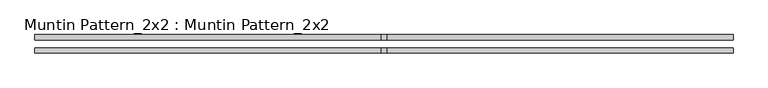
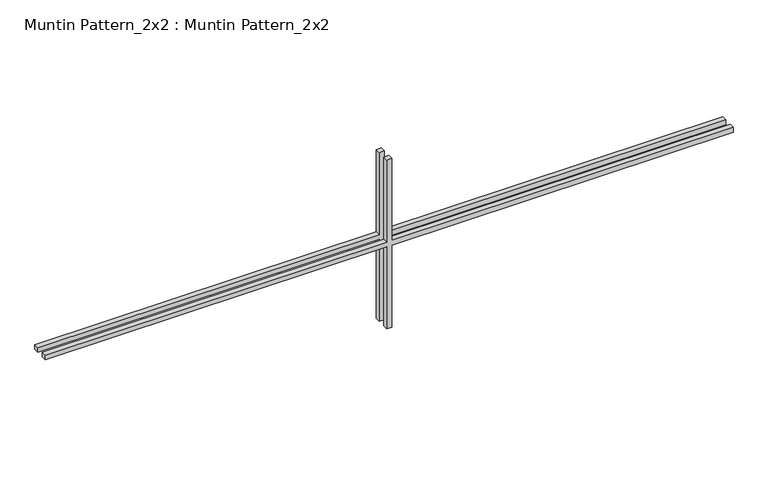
"""IFC4 building model written with IfcOpenShell, lengths in millimetres: proxy geometry, Muntin Pattern_2x2 : Muntin Pattern_2x2."""

from ifc_helpers import new_model, si_unit, frame, origin, place, context, project, spatial, polyline, outline, extrude, source, transform, mapped, element, save


def muntin_pattern_2x2_muntin_pattern_2x2_8d1b6ffe(model_context):
    return source(origin(), model_context, "Body", "SweptSolid", [
        extrude(outline(polyline([(223.8375, -6.35), (223.8375, -838.2), (211.1375, -838.2), (211.1375, -6.35), (0.0, -6.35), (0.0, 6.35), (211.1375, 6.35), (211.1375, 838.2), (223.8375, 838.2), (223.8375, 6.35), (434.975, 6.35), (434.975, -6.35), (223.8375, -6.35)])), frame((0.0, 9.525, 0.0), z_axis=(0.0, 1.0, 0.0), x_axis=(0.0, 0.0, 1.0)), (0.0, 0.0, 1.0), 12.7),
        extrude(outline(polyline([(223.8375, -6.35), (223.8375, -838.2), (211.1375, -838.2), (211.1375, -6.35), (0.0, -6.35), (0.0, 6.35), (211.1375, 6.35), (211.1375, 838.2), (223.8375, 838.2), (223.8375, 6.35), (434.975, 6.35), (434.975, -6.35), (223.8375, -6.35)])), frame((0.0, -22.225, 0.0), z_axis=(0.0, 1.0, 0.0), x_axis=(0.0, 0.0, 1.0)), (0.0, 0.0, 1.0), 12.7),
    ])


if __name__ == "__main__":
    model = new_model("IFC4")
    model_context = context("Model", 3, world=origin())
    ifc_project = project(units=[si_unit("LENGTHUNIT", "METRE", prefix="MILLI")], contexts=[model_context])
    site = spatial("IfcSite", under=ifc_project)
    building = spatial("IfcBuilding", under=site)
    placement = place(None, origin())
    muntin_pattern_2x2_muntin_pattern_2x2_shape = muntin_pattern_2x2_muntin_pattern_2x2_8d1b6ffe(model_context)
    element("IfcBuildingElementProxy", 1, Name="Muntin Pattern_2x2 : Muntin Pattern_2x2", ObjectType="Muntin Pattern_2x2 : Muntin Pattern_2x2", at=placement, inside=building, context=model_context, shape_type="MappedRepresentation", body=[
        mapped(muntin_pattern_2x2_muntin_pattern_2x2_shape, transform((0.0, 0.0, 0.0), x_axis=(1.0, 0.0, 0.0), y_axis=(0.0, 1.0, 0.0), z_axis=(0.0, 0.0, 1.0))),
    ])
    save(model, "model.ifc")
